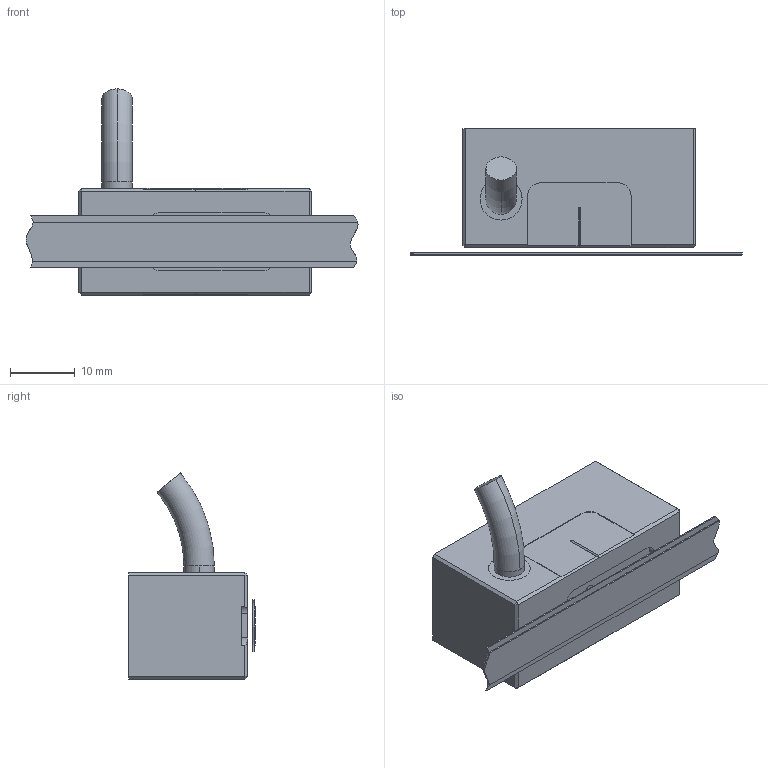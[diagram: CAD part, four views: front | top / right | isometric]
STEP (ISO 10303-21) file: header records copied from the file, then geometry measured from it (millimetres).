
FILE_DESCRIPTION (( 'STEP AP214' ), '1' );
FILE_NAME ('ABS侧出线（直线模型）.STEP', '2026-01-29T05:47:29', ( '' ), ( '' ), 'SwSTEP 2.0', 'SolidWorks 2024', '' );
FILE_SCHEMA (( 'AUTOMOTIVE_DESIGN' ));
Length unit declared in the file: millimetre
Products named in the file (4): 8mm栅尺; 绝对值贴膜; ABS侧出线（直线模型）; ABS侧出线26.1.29
Assembly tree (3 placements, depth 2):
  ABS侧出线（直线模型）
    ABS侧出线26.1.29
    8mm栅尺
    绝对值贴膜
Bounding box: 51.37 x 19.6 x 31.9 mm (x, y, z)
Volume: 10380.5 mm3; surface area: 6849 mm2
Topology: 6 solids, 6 shells, 1035 faces, 2752 edges, 1821 vertices
Faces by surface type: plane 685, bspline 263, cylinder 70, cone 15, torus 2
Entity records: 45620 total; most frequent: CARTESIAN_POINT 21399, ORIENTED_EDGE 5500, DIRECTION 3917, EDGE_CURVE 2750, LINE 2053, VECTOR 2053, VERTEX_POINT 1821, EDGE_LOOP 1143
